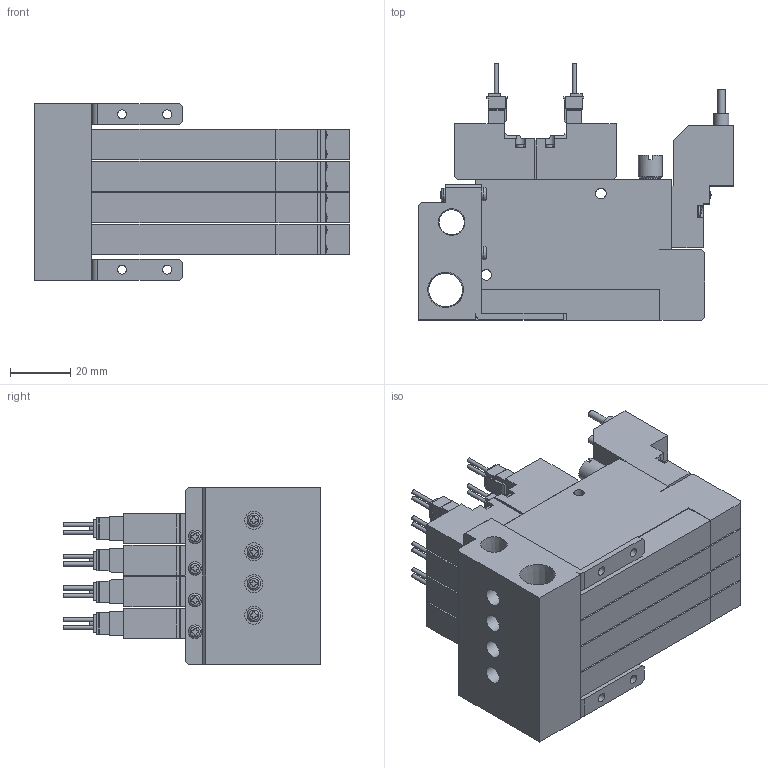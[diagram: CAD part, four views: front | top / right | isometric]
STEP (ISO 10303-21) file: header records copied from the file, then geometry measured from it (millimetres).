
FILE_DESCRIPTION(('STEP AP203'),'1');
FILE_NAME('V8C5SC404_3D.stp','2024-09-04T13:58:02',(' '),(' '),'Spatial InterOp 3D',' ',' ');
FILE_SCHEMA(('CONFIG_CONTROL_DESIGN'));
Length unit declared in the file: millimetre
Products named in the file (5): BSC1M※※V8C5SC404; Solenoid valve S; Pressure Sensor V8; Unit-C; BaseMC40R
Assembly tree (13 placements, depth 2):
  BSC1M※※V8C5SC404
    Solenoid valve S  x4
    Pressure Sensor V8  x4
    Unit-C  x4
    BaseMC40R
Bounding box: 104.5 x 85.05 x 58.5 mm (x, y, z)
Volume: 232002.3 mm3; surface area: 81555.2 mm2
Topology: 13 solids, 13 shells, 1627 faces, 4363 edges, 2886 vertices
Faces by surface type: plane 1247, cylinder 292, cone 40, torus 28, sphere 20
Full cylindrical faces by diameter (mm): 1.4 x16, 2.5 x20, 3 x20, 3.5 x24, 4 x4, 4.134 x8, 4.5 x12, 5 x4, 5.5 x4, 6 x4, 7 x8, 8 x4, 8.422 x1, 11.233 x1
Entity records: 18260 total; most frequent: CARTESIAN_POINT 4100, DIRECTION 2812, ORIENTED_EDGE 2750, EDGE_CURVE 1375, VERTEX_POINT 969, LINE 942, VECTOR 942, AXIS2_PLACEMENT_3D 935
